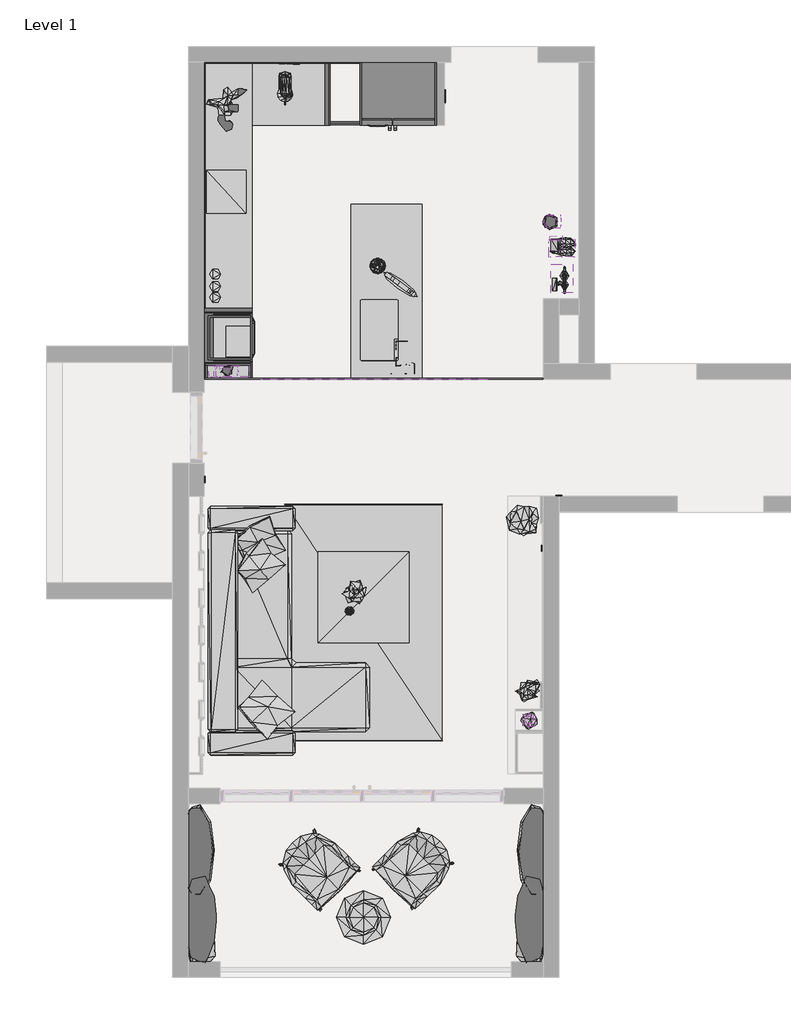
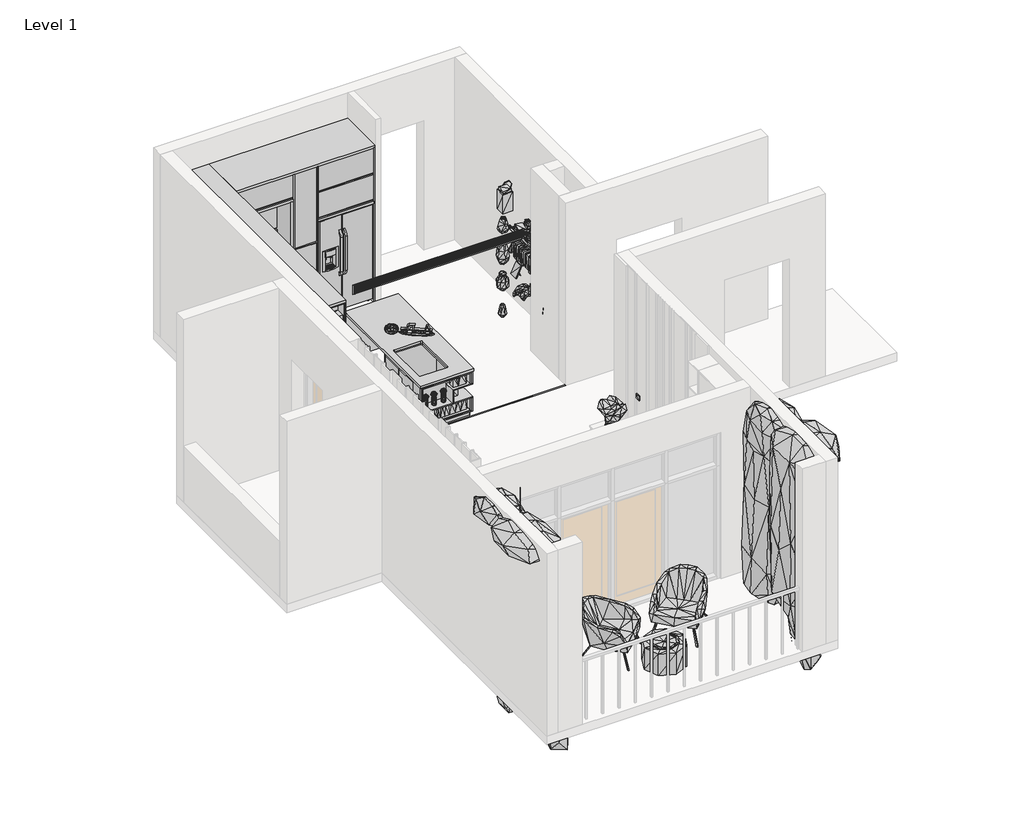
# One storey, part 2 of 2: 62 geographic elements, 4 proxies, 1 furniture element.
"""IFC4 building model written with IfcOpenShell, lengths in millimetres."""

from ifc_helpers import new_model, si_unit, origin, place, context, project, spatial, transform, mapped, element, save
from components import specialty_equipment_b5bd31df, specialty_equipment_c4bc254f, specialty_equipment_980dbe76, specialty_equipment_90c1c6b7, generic_models_adb6d911, generic_models_1_generic_models_1_b91d2ab0, generic_models_1_generic_models_1_2284acf8, inlet_grid_ga15_4a61f467, refrigerator_ge_7938_refrigerator_ge_7938_6d497281, geographic_element_9300c8df, geographic_element_6c01276e, geographic_element_3e976fe9, geographic_element_067eaa29, geographic_element_decb433f, geographic_element_b8c225c3, geographic_element_2400c7e3, geographic_element_4d599565, geographic_element_d3b9378c, geographic_element_60de37d3, geographic_element_de3b21ac, geographic_element_f0b484e9, geographic_element_9074d599, geographic_element_8ae85c0b, geographic_element_9d54f048, geographic_element_f46679e8, geographic_element_d4c91cff, geographic_element_4bf2e114, geographic_element_d181bed6, enscape_assetdefinition_books_02_1_enscape_assetdefinition_e079a25d, enscape_assetdefinition_books_04_1_enscape_assetdefinition_30a1759c, enscape_assetdefinition_books_09_1_enscape_assetdefinition_3c5f9357, enscape_assetdefinition_books_10_enscape_assetdefinition_bd5f69e2, enscape_assetdefinition_books_11_enscape_assetdefinition_afcb8159, enscape_assetdefinition_books_enscape_assetdefinition_books_90869a48, enscape_assetdefinition_electric_mixer_1_enscape_94847bc3, enscape_assetdefinition_interior_plant_35_enscape_2c715937, enscape_assetdefinition_interior_plant_62_enscape_7ba2f476, enscape_assetdefinition_interior_plant_64_enscape_317deba9, enscape_assetdefinition_interior_plant_81_enscape_1c3ac804, enscape_assetdefinition_interior_plant_83_enscape_5eada784, enscape_assetdefinition_interior_plant_90_1_enscape_fa028396, enscape_assetdefinition_light_switch_02_enscape_f65dbdaa, enscape_assetdefinition_outdoor_armchair_06_enscape_9edebd44, enscape_assetdefinition_outdoor_couch_table_04_enscape_5f19a239, enscape_assetdefinition_photo_frame_enscape_assetdefinition_5837e575, enscape_assetdefinition_picture_frame_portrait_1_enscape_684294eb, enscape_assetdefinition_power_socket_1_enscape_57b8c8f3, enscape_assetdefinition_rug_07_enscape_assetdefinition_rug_c4f60c79, enscape_assetdefinition_sculpture_man_enscape_320ed476, enscape_assetdefinition_sculpture_sun_enscape_59169893, enscape_assetdefinition_side_table_15_enscape_5be1d814, enscape_assetdefinition_sofa_13_enscape_assetdefinition_sofa_9e4e7f4c, enscape_assetdefinition_tomato_bowl_enscape_assetdefinition_e00e02f3, enscape_assetdefinition_vase_07_enscape_assetdefinition_vase_3c7b1416, enscape_assetdefinition_vase_09_enscape_assetdefinition_vase_83b714b2, enscape_assetdefinition_vase_12_enscape_assetdefinition_vase_6fe4ffb9

model = new_model("IFC4")

# Units and contexts
model_context = context("Model", 3, world=origin())
ifc_project = project(units=[si_unit("LENGTHUNIT", "METRE", prefix="MILLI")], contexts=[model_context])

# Site, building, storey
site = spatial("IfcSite", under=ifc_project)
building = spatial("IfcBuilding", under=site)
storey = spatial("IfcBuildingStorey", under=building, Name="Level 1", Elevation=0.0)

# Proxies
placement = place(None, origin())
specialty_equipment_shape = specialty_equipment_b5bd31df(model_context)
specialty_equipment_2_shape = specialty_equipment_c4bc254f(model_context)
specialty_equipment_3_shape = specialty_equipment_980dbe76(model_context)
specialty_equipment_4_shape = specialty_equipment_90c1c6b7(model_context)
element("IfcBuildingElementProxy", 1, Name="Horno_-_Microondas__Oven_-_Microwave_16796 : Horno_-_Microondas__Oven_-_Microwave_16796", ObjectType="Horno_-_Microondas__Oven_-_Microwave_16796 : Horno_-_Microondas__Oven_-_Microwave_16796", at=placement, inside=storey, context=model_context, shape_type="MappedRepresentation", body=[
    mapped(specialty_equipment_shape, transform((-5777.2426281, 3220.1043853, 228.0), x_axis=(0.0, 1.0, 0.0), y_axis=(-1.0, 0.0, 0.0), z_axis=(0.0, 0.0, 1.0))),
    mapped(specialty_equipment_2_shape, transform((-5777.2426281, 3220.1043853, 228.0), x_axis=(0.0, 1.0, 0.0), y_axis=(-1.0, 0.0, 0.0), z_axis=(0.0, 0.0, 1.0))),
    mapped(specialty_equipment_3_shape, transform((-5777.2426281, 3220.1043853, 228.0), x_axis=(0.0, 1.0, 0.0), y_axis=(-1.0, 0.0, 0.0), z_axis=(0.0, 0.0, 1.0))),
    mapped(specialty_equipment_4_shape, transform((-5777.2426281, 3220.1043853, 228.0), x_axis=(0.0, 1.0, 0.0), y_axis=(-1.0, 0.0, 0.0), z_axis=(0.0, 0.0, 1.0))),
])
generic_models_shape = generic_models_adb6d911(model_context)
element("IfcBuildingElementProxy", 2, Name="ArcPro Statue : ArcPro Statue", ObjectType="ArcPro Statue : ArcPro Statue", at=placement, inside=storey, context=model_context, shape_type="MappedRepresentation", body=[
    mapped(generic_models_shape, transform((-3827.6139684, 3856.4743983, 830.0), x_axis=(-0.8043072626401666, 0.5942136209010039, 0.0), y_axis=(-0.5942136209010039, -0.8043072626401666, 0.0), z_axis=(0.0, 0.0, 1.0))),
])
generic_models_1_generic_models_1_shape = generic_models_1_generic_models_1_b91d2ab0(model_context)
generic_models_1_generic_models_1_2_shape = generic_models_1_generic_models_1_2284acf8(model_context)
element("IfcBuildingElementProxy", 3, Name="Generic Models 1 : Generic Models 1", ObjectType="Generic Models 1 : Generic Models 1", at=placement, inside=storey, context=model_context, shape_type="MappedRepresentation", body=[
    mapped(generic_models_1_generic_models_1_shape, transform((0.0, 0.0, 0.0), x_axis=(1.0, 0.0, 0.0), y_axis=(0.0, 1.0, 0.0), z_axis=(0.0, 0.0, 1.0))),
    mapped(generic_models_1_generic_models_1_2_shape, transform((0.0, 0.0, 0.0), x_axis=(1.0, 0.0, 0.0), y_axis=(0.0, 1.0, 0.0), z_axis=(0.0, 0.0, 1.0))),
])
inlet_grid_ga15_shape = inlet_grid_ga15_4a61f467(model_context)
element("IfcBuildingElementProxy", 4, Name="HVAC_Accessories_Emmeti_Grid-GA : Inlet grid - GA15", ObjectType="HVAC_Accessories_Emmeti_Grid-GA : Inlet grid - GA15", at=placement, inside=storey, context=model_context, shape_type="MappedRepresentation", body=[
    mapped(inlet_grid_ga15_shape, transform((-5348.1721278, 2689.1043853, 2875.0), x_axis=(-1.0, 0.0, 0.0), y_axis=(0.0, -1.0, 0.0), z_axis=(0.0, 0.0, 1.0))),
])

# Furniture
refrigerator_ge_7938_refrigerator_ge_7938_shape = refrigerator_ge_7938_refrigerator_ge_7938_6d497281(model_context)
element("IfcFurniture", 5, ObjectType="Refrigerator_GE_7938 : Refrigerator_GE_7938", at=placement, inside=storey, context=model_context, shape_type="MappedRepresentation", body=[
    mapped(refrigerator_ge_7938_refrigerator_ge_7938_shape, transform((-3957.2426281, 5910.1043853, 0.0), x_axis=(1.0, 0.0, 0.0), y_axis=(0.0, 1.0, 0.0), z_axis=(0.0, 0.0, 1.0))),
])

# Geographic elements
geographic_element_shape = geographic_element_9300c8df(model_context)
element("IfcGeographicElement", 6, ObjectType="Enscape AssetDefinition - Cooking plate 1 : Enscape AssetDefinition - Cooking plate 1", at=placement, inside=storey, context=model_context, shape_type="MappedRepresentation", body=[
    mapped(geographic_element_shape, transform((-6087.2426281, 5070.1043853, 830.0), x_axis=(0.0, 1.0, 0.0), y_axis=(-1.0, 0.0, 0.0), z_axis=(0.0, 0.0, 1.0))),
])
geographic_element_2_shape = geographic_element_6c01276e(model_context)
element("IfcGeographicElement", 7, ObjectType="Enscape AssetDefinition - Canister 02 : Enscape AssetDefinition - Canister 02", at=placement, inside=storey, context=model_context, shape_type="MappedRepresentation", body=[
    mapped(geographic_element_2_shape, transform((-6227.2426281, 3730.1043853, 830.0), x_axis=(1.0, 0.0, 0.0), y_axis=(0.0, 1.0, 0.0), z_axis=(0.0, 0.0, 1.0))),
])
element("IfcGeographicElement", 8, ObjectType="Enscape AssetDefinition - Canister 02 : Enscape AssetDefinition - Canister 02", at=placement, inside=storey, context=model_context, shape_type="MappedRepresentation", body=[
    mapped(geographic_element_2_shape, transform((-6227.2426281, 3870.1043853, 830.0), x_axis=(1.0, 0.0, 0.0), y_axis=(0.0, 1.0, 0.0), z_axis=(0.0, 0.0, 1.0))),
])
element("IfcGeographicElement", 9, ObjectType="Enscape AssetDefinition - Canister 02 : Enscape AssetDefinition - Canister 02", at=placement, inside=storey, context=model_context, shape_type="MappedRepresentation", body=[
    mapped(geographic_element_2_shape, transform((-6227.2426281, 4024.5043853, 830.0), x_axis=(1.0, 0.0, 0.0), y_axis=(0.0, 1.0, 0.0), z_axis=(0.0, 0.0, 1.0))),
])
geographic_element_3_shape = geographic_element_3e976fe9(model_context)
element("IfcGeographicElement", 10, ObjectType="Enscape AssetDefinition - Rosemary, Potted 1 : Enscape AssetDefinition - Rosemary, Potted 1", at=placement, inside=storey, context=model_context, shape_type="MappedRepresentation", body=[
    mapped(geographic_element_3_shape, transform((-2247.2426281, -1629.8956147, 823.3333333), x_axis=(1.0, 0.0, 0.0), y_axis=(0.0, 1.0, 0.0), z_axis=(0.0, 0.0, 1.0))),
])
geographic_element_4_shape = geographic_element_067eaa29(model_context)
element("IfcGeographicElement", 11, ObjectType="Enscape AssetDefinition - Sculpture, Cats : Enscape AssetDefinition - Sculpture, Cats", at=placement, inside=storey, context=model_context, shape_type="MappedRepresentation", body=[
    mapped(geographic_element_4_shape, transform((-1797.2426281, 3950.1043853, 474.4), x_axis=(0.0, -1.0, 0.0), y_axis=(1.0, 0.0, 0.0), z_axis=(0.0, 0.0, 1.0))),
])
geographic_element_5_shape = geographic_element_decb433f(model_context)
element("IfcGeographicElement", 12, ObjectType="Enscape AssetDefinition - Sculpture, Bears : Enscape AssetDefinition - Sculpture, Bears", at=placement, inside=storey, context=model_context, shape_type="MappedRepresentation", body=[
    mapped(geographic_element_5_shape, transform((-1817.2426281, 4370.1043853, 474.4), x_axis=(0.0, -1.0, 0.0), y_axis=(1.0, 0.0, 0.0), z_axis=(0.0, 0.0, 1.0))),
])
geographic_element_6_shape = geographic_element_b8c225c3(model_context)
element("IfcGeographicElement", 13, ObjectType="Enscape AssetDefinition - Candle Lantern : Enscape AssetDefinition - Candle Lantern", at=placement, inside=storey, context=model_context, shape_type="MappedRepresentation", body=[
    mapped(geographic_element_6_shape, transform((-1932.2426281, 4690.1043853, 1872.6666667), x_axis=(0.0, -1.0, 0.0), y_axis=(1.0, 0.0, 0.0), z_axis=(0.0, 0.0, 1.0))),
])
geographic_element_7_shape = geographic_element_2400c7e3(model_context)
element("IfcGeographicElement", 14, ObjectType="Enscape AssetDefinition - Origami Vase 03 : Enscape AssetDefinition - Origami Vase 03", at=placement, inside=storey, context=model_context, shape_type="MappedRepresentation", body=[
    mapped(geographic_element_7_shape, transform((-1977.2426281, 4686.6211578, 945.3333333), x_axis=(1.0, 0.0, 0.0), y_axis=(0.0, 1.0, 0.0), z_axis=(0.0, 0.0, 1.0))),
])
geographic_element_8_shape = geographic_element_4d599565(model_context)
element("IfcGeographicElement", 15, ObjectType="Enscape AssetDefinition - Decoration Collection : Enscape AssetDefinition - Decoration Collection", at=placement, inside=storey, context=model_context, shape_type="MappedRepresentation", body=[
    mapped(geographic_element_8_shape, transform((-6050.4166281, 2791.7593846, 1852.6676667), x_axis=(1.0, 0.0, 0.0), y_axis=(0.0, 1.0, 0.0), z_axis=(0.0, 0.0, 1.0))),
])
geographic_element_9_shape = geographic_element_d3b9378c(model_context)
element("IfcGeographicElement", 16, ObjectType="Enscape AssetDefinition - Candle Holder : Enscape AssetDefinition - Candle Holder", at=placement, inside=storey, context=model_context, shape_type="MappedRepresentation", body=[
    mapped(geographic_element_9_shape, transform((-2247.2426281, -1629.8956147, 2189.3333333), x_axis=(1.0, 0.0, 0.0), y_axis=(0.0, 1.0, 0.0), z_axis=(0.0, 0.0, 1.0))),
])
geographic_element_10_shape = geographic_element_60de37d3(model_context)
element("IfcGeographicElement", 17, ObjectType="Enscape AssetDefinition - Candle Tray 02 : Enscape AssetDefinition - Candle Tray 02", at=placement, inside=storey, context=model_context, shape_type="MappedRepresentation", body=[
    mapped(geographic_element_10_shape, transform((-1831.3733877, 3970.8018649, 1693.499), x_axis=(0.0, 1.0, 0.0), y_axis=(-1.0, 0.0, 0.0), z_axis=(0.0, 0.0, 1.0))),
])
geographic_element_11_shape = geographic_element_de3b21ac(model_context)
element("IfcGeographicElement", 18, ObjectType="Enscape AssetDefinition - Decoration Collection 02 : Enscape AssetDefinition - Decoration Collection 02", at=placement, inside=storey, context=model_context, shape_type="MappedRepresentation", body=[
    mapped(geographic_element_11_shape, transform((-1830.0857866, 4353.0213193, 1689.4279999), x_axis=(1.0, 0.0, 0.0), y_axis=(0.0, 1.0, 0.0), z_axis=(0.0, 0.0, 1.0))),
])
geographic_element_12_shape = geographic_element_f0b484e9(model_context)
element("IfcGeographicElement", 19, ObjectType="Enscape AssetDefinition - Origami Vase 04 : Enscape AssetDefinition - Origami Vase 04", at=placement, inside=storey, context=model_context, shape_type="MappedRepresentation", body=[
    mapped(geographic_element_12_shape, transform((-1977.2426281, 4686.6211578, 0.0), x_axis=(1.0, 0.0, 0.0), y_axis=(0.0, 1.0, 0.0), z_axis=(0.0, 0.0, 1.0))),
])
geographic_element_13_shape = geographic_element_9074d599(model_context)
element("IfcGeographicElement", 20, ObjectType="Enscape AssetDefinition - Plushy 02 : Enscape AssetDefinition - Plushy 02", at=placement, inside=storey, context=model_context, shape_type="MappedRepresentation", body=[
    mapped(geographic_element_13_shape, transform((-6050.4166281, 2791.7593846, 491.7), x_axis=(1.0, 0.0, 0.0), y_axis=(0.0, 1.0, 0.0), z_axis=(0.0, 0.0, 1.0))),
])
geographic_element_14_shape = geographic_element_8ae85c0b(model_context)
element("IfcGeographicElement", 21, ObjectType="Enscape AssetDefinition - Plushy 03 : Enscape AssetDefinition - Plushy 03", at=placement, inside=storey, context=model_context, shape_type="MappedRepresentation", body=[
    mapped(geographic_element_14_shape, transform((-6067.2426281, 2791.7593846, 38.0), x_axis=(1.0, 0.0, 0.0), y_axis=(0.0, 1.0, 0.0), z_axis=(0.0, 0.0, 1.0))),
])
geographic_element_15_shape = geographic_element_9d54f048(model_context)
element("IfcGeographicElement", 22, ObjectType="Enscape AssetDefinition - Strawberry Bowl : Enscape AssetDefinition - Strawberry Bowl", at=placement, inside=storey, context=model_context, shape_type="MappedRepresentation", body=[
    mapped(geographic_element_15_shape, transform((-4522.2472574, -244.900244, 242.8), x_axis=(1.0, 0.0, 0.0), y_axis=(0.0, 1.0, 0.0), z_axis=(0.0, 0.0, 1.0))),
])
geographic_element_16_shape = geographic_element_f46679e8(model_context)
element("IfcGeographicElement", 23, ObjectType="Enscape AssetDefinition - Bower Vine 13 : Enscape AssetDefinition - Bower Vine 13", at=placement, inside=storey, context=model_context, shape_type="MappedRepresentation", body=[
    mapped(geographic_element_16_shape, transform((-6567.2426281, -3289.8956147, 3000.0), x_axis=(0.0, 1.0, 0.0), y_axis=(-1.0, 0.0, 0.0), z_axis=(0.0, 0.0, 1.0))),
])
geographic_element_17_shape = geographic_element_d4c91cff(model_context)
element("IfcGeographicElement", 24, ObjectType="Enscape AssetDefinition - Bower Vine 06 : Enscape AssetDefinition - Bower Vine 06", at=placement, inside=storey, context=model_context, shape_type="MappedRepresentation", body=[
    mapped(geographic_element_17_shape, transform((-6567.2426281, -4189.8956147, 3000.0), x_axis=(0.0, 1.0, 0.0), y_axis=(-1.0, 0.0, 0.0), z_axis=(0.0, 0.0, 1.0))),
])
geographic_element_18_shape = geographic_element_4bf2e114(model_context)
element("IfcGeographicElement", 25, ObjectType="Enscape AssetDefinition - Bower Vine 13 : Enscape AssetDefinition - Bower Vine 13", at=placement, inside=storey, context=model_context, shape_type="MappedRepresentation", body=[
    mapped(geographic_element_18_shape, transform((-2067.2426281, -3289.8956147, 3000.0), x_axis=(0.0, 1.0, 0.0), y_axis=(-1.0, 0.0, 0.0), z_axis=(0.0, 0.0, 1.0))),
])
geographic_element_19_shape = geographic_element_d181bed6(model_context)
element("IfcGeographicElement", 26, ObjectType="Enscape AssetDefinition - Bower Vine 06 : Enscape AssetDefinition - Bower Vine 06", at=placement, inside=storey, context=model_context, shape_type="MappedRepresentation", body=[
    mapped(geographic_element_19_shape, transform((-2067.2426281, -4189.8956147, 3000.0), x_axis=(0.0, 1.0, 0.0), y_axis=(-1.0, 0.0, 0.0), z_axis=(0.0, 0.0, 1.0))),
])
enscape_assetdefinition_books_02_1_enscape_assetdefinition_shape = enscape_assetdefinition_books_02_1_enscape_assetdefinition_e079a25d(model_context)
element("IfcGeographicElement", 27, ObjectType="Enscape AssetDefinition - Books 02 1 : Enscape AssetDefinition - Books 02 1", at=placement, inside=storey, context=model_context, shape_type="MappedRepresentation", body=[
    mapped(enscape_assetdefinition_books_02_1_enscape_assetdefinition_shape, transform((-1917.648608, 4133.2060024, 1286.7863832), x_axis=(1.0, 0.0, 0.0), y_axis=(0.0, 1.0, 0.0), z_axis=(0.0, 0.0, 1.0))),
])
enscape_assetdefinition_books_04_1_enscape_assetdefinition_shape = enscape_assetdefinition_books_04_1_enscape_assetdefinition_30a1759c(model_context)
element("IfcGeographicElement", 28, ObjectType="Enscape AssetDefinition - Books 04 1 : Enscape AssetDefinition - Books 04 1", at=placement, inside=storey, context=model_context, shape_type="MappedRepresentation", body=[
    mapped(enscape_assetdefinition_books_04_1_enscape_assetdefinition_shape, transform((-6021.8726268, 2791.7593846, 2306.3333333), x_axis=(1.0, 0.0, 0.0), y_axis=(0.0, 1.0, 0.0), z_axis=(0.0, 0.0, 1.0))),
])
enscape_assetdefinition_books_09_1_enscape_assetdefinition_shape = enscape_assetdefinition_books_09_1_enscape_assetdefinition_3c5f9357(model_context)
element("IfcGeographicElement", 29, ObjectType="Enscape AssetDefinition - Books 09 1 : Enscape AssetDefinition - Books 09 1", at=placement, inside=storey, context=model_context, shape_type="MappedRepresentation", body=[
    mapped(enscape_assetdefinition_books_09_1_enscape_assetdefinition_shape, transform((-6177.2426281, 2790.1043853, 1399.0), x_axis=(1.0, 0.0, 0.0), y_axis=(0.0, 1.0, 0.0), z_axis=(0.0, 0.0, 1.0))),
])
enscape_assetdefinition_books_10_enscape_assetdefinition_shape = enscape_assetdefinition_books_10_enscape_assetdefinition_bd5f69e2(model_context)
element("IfcGeographicElement", 30, ObjectType="Enscape AssetDefinition - Books 10 : Enscape AssetDefinition - Books 10", at=placement, inside=storey, context=model_context, shape_type="MappedRepresentation", body=[
    mapped(enscape_assetdefinition_books_10_enscape_assetdefinition_shape, transform((-3806.9010035, 2830.8110799, 568.0), x_axis=(1.0, 0.0, 0.0), y_axis=(0.0, 1.0, 0.0), z_axis=(0.0, 0.0, 1.0))),
])
enscape_assetdefinition_books_11_enscape_assetdefinition_shape = enscape_assetdefinition_books_11_enscape_assetdefinition_afcb8159(model_context)
element("IfcGeographicElement", 31, ObjectType="Enscape AssetDefinition - Books 11 : Enscape AssetDefinition - Books 11", at=placement, inside=storey, context=model_context, shape_type="MappedRepresentation", body=[
    mapped(enscape_assetdefinition_books_11_enscape_assetdefinition_shape, transform((-4066.3065129, 2830.8110799, 108.0), x_axis=(1.0, 0.0, 0.0), y_axis=(0.0, 1.0, 0.0), z_axis=(0.0, 0.0, 1.0))),
])
enscape_assetdefinition_books_enscape_assetdefinition_books_shape = enscape_assetdefinition_books_enscape_assetdefinition_books_90869a48(model_context)
element("IfcGeographicElement", 32, ObjectType="Enscape AssetDefinition - Books : Enscape AssetDefinition - Books", at=placement, inside=storey, context=model_context, shape_type="MappedRepresentation", body=[
    mapped(enscape_assetdefinition_books_enscape_assetdefinition_books_shape, transform((-3937.2426281, 3015.7965873, 328.0), x_axis=(1.0, 0.0, 0.0), y_axis=(0.0, 1.0, 0.0), z_axis=(0.0, 0.0, 1.0))),
])
enscape_assetdefinition_electric_mixer_1_enscape_shape = enscape_assetdefinition_electric_mixer_1_enscape_94847bc3(model_context)
element("IfcGeographicElement", 33, ObjectType="Enscape AssetDefinition - Electric Mixer 1 : Enscape AssetDefinition - Electric Mixer 1", at=placement, inside=storey, context=model_context, shape_type="MappedRepresentation", body=[
    mapped(enscape_assetdefinition_electric_mixer_1_enscape_shape, transform((-5342.2426281, 6390.1043853, 830.0), x_axis=(1.0, 0.0, 0.0), y_axis=(0.0, 1.0, 0.0), z_axis=(0.0, 0.0, 1.0))),
])
enscape_assetdefinition_interior_plant_35_enscape_shape = enscape_assetdefinition_interior_plant_35_enscape_2c715937(model_context)
element("IfcGeographicElement", 34, ObjectType="Enscape AssetDefinition - Interior Plant 35 : Enscape AssetDefinition - Interior Plant 35", at=placement, inside=storey, context=model_context, shape_type="MappedRepresentation", body=[
    mapped(enscape_assetdefinition_interior_plant_35_enscape_shape, transform((-2247.2426281, -1249.8956147, 350.0), x_axis=(1.0, 0.0, 0.0), y_axis=(0.0, 1.0, 0.0), z_axis=(0.0, 0.0, 1.0))),
])
enscape_assetdefinition_interior_plant_62_enscape_shape = enscape_assetdefinition_interior_plant_62_enscape_7ba2f476(model_context)
element("IfcGeographicElement", 35, ObjectType="Enscape AssetDefinition - Interior Plant 62 : Enscape AssetDefinition - Interior Plant 62", at=placement, inside=storey, context=model_context, shape_type="MappedRepresentation", body=[
    mapped(enscape_assetdefinition_interior_plant_62_enscape_shape, transform((-4455.9564686, -17.4652255, 242.7749932), x_axis=(1.0, 0.0, 0.0), y_axis=(0.0, 1.0, 0.0), z_axis=(0.0, 0.0, 1.0))),
])
enscape_assetdefinition_interior_plant_64_enscape_shape = enscape_assetdefinition_interior_plant_64_enscape_317deba9(model_context)
element("IfcGeographicElement", 36, ObjectType="Enscape AssetDefinition - Interior Plant 64 : Enscape AssetDefinition - Interior Plant 64", at=placement, inside=storey, context=model_context, shape_type="MappedRepresentation", body=[
    mapped(enscape_assetdefinition_interior_plant_64_enscape_shape, transform((-2249.8688618, -1627.269381, 368.0), x_axis=(1.0, 0.0, 0.0), y_axis=(0.0, 1.0, 0.0), z_axis=(0.0, 0.0, 1.0))),
])
enscape_assetdefinition_interior_plant_81_enscape_shape = enscape_assetdefinition_interior_plant_81_enscape_1c3ac804(model_context)
element("IfcGeographicElement", 37, ObjectType="Enscape AssetDefinition - Interior Plant 81 : Enscape AssetDefinition - Interior Plant 81", at=placement, inside=storey, context=model_context, shape_type="MappedRepresentation", body=[
    mapped(enscape_assetdefinition_interior_plant_81_enscape_shape, transform((-6067.2426281, 2810.1043853, 945.3333333), x_axis=(1.0, 0.0, 0.0), y_axis=(0.0, 1.0, 0.0), z_axis=(0.0, 0.0, 1.0))),
])
enscape_assetdefinition_interior_plant_83_enscape_shape = enscape_assetdefinition_interior_plant_83_enscape_5eada784(model_context)
element("IfcGeographicElement", 38, ObjectType="Enscape AssetDefinition - Interior Plant 83 : Enscape AssetDefinition - Interior Plant 83", at=placement, inside=storey, context=model_context, shape_type="MappedRepresentation", body=[
    mapped(enscape_assetdefinition_interior_plant_83_enscape_shape, transform((-2307.2426281, 890.1043853, 350.0), x_axis=(1.0, 0.0, 0.0), y_axis=(0.0, 1.0, 0.0), z_axis=(0.0, 0.0, 1.0))),
])
enscape_assetdefinition_interior_plant_90_1_enscape_shape = enscape_assetdefinition_interior_plant_90_1_enscape_fa028396(model_context)
element("IfcGeographicElement", 39, ObjectType="Enscape AssetDefinition - Interior Plant 90 1 : Enscape AssetDefinition - Interior Plant 90 1", at=placement, inside=storey, context=model_context, shape_type="MappedRepresentation", body=[
    mapped(enscape_assetdefinition_interior_plant_90_1_enscape_shape, transform((-6087.2426281, 6130.1043853, 830.0), x_axis=(0.0, 1.0, 0.0), y_axis=(-1.0, 0.0, 0.0), z_axis=(0.0, 0.0, 1.0))),
])
enscape_assetdefinition_light_switch_02_enscape_shape = enscape_assetdefinition_light_switch_02_enscape_f65dbdaa(model_context)
element("IfcGeographicElement", 40, ObjectType="Enscape AssetDefinition - Light Switch 02 : Enscape AssetDefinition - Light Switch 02", at=placement, inside=storey, context=model_context, shape_type="MappedRepresentation", body=[
    mapped(enscape_assetdefinition_light_switch_02_enscape_shape, transform((-3317.2426281, 6325.1043853, 1100.0), x_axis=(0.0, 1.0, 0.0), y_axis=(-1.0, 0.0, 0.0), z_axis=(0.0, 0.0, 1.0))),
])
element("IfcGeographicElement", 41, ObjectType="Enscape AssetDefinition - Light Switch 02 : Enscape AssetDefinition - Light Switch 02", at=placement, inside=storey, context=model_context, shape_type="MappedRepresentation", body=[
    mapped(enscape_assetdefinition_light_switch_02_enscape_shape, transform((-3317.2426281, 6240.1043853, 1100.0), x_axis=(0.0, 1.0, 0.0), y_axis=(-1.0, 0.0, 0.0), z_axis=(0.0, 0.0, 1.0))),
])
element("IfcGeographicElement", 42, ObjectType="Enscape AssetDefinition - Light Switch 02 : Enscape AssetDefinition - Light Switch 02", at=placement, inside=storey, context=model_context, shape_type="MappedRepresentation", body=[
    mapped(enscape_assetdefinition_light_switch_02_enscape_shape, transform((-5197.4618478, 6700.1043853, 1100.0), x_axis=(1.0, 0.0, 0.0), y_axis=(0.0, 1.0, 0.0), z_axis=(0.0, 0.0, 1.0))),
])
element("IfcGeographicElement", 43, ObjectType="Enscape AssetDefinition - Light Switch 02 : Enscape AssetDefinition - Light Switch 02", at=placement, inside=storey, context=model_context, shape_type="MappedRepresentation", body=[
    mapped(enscape_assetdefinition_light_switch_02_enscape_shape, transform((-6367.2426281, 5750.1043853, 1100.0), x_axis=(0.0, 1.0, 0.0), y_axis=(-1.0, 0.0, 0.0), z_axis=(0.0, 0.0, 1.0))),
])
element("IfcGeographicElement", 44, ObjectType="Enscape AssetDefinition - Light Switch 02 : Enscape AssetDefinition - Light Switch 02", at=placement, inside=storey, context=model_context, shape_type="MappedRepresentation", body=[
    mapped(enscape_assetdefinition_light_switch_02_enscape_shape, transform((-6367.2426281, 1420.1043853, 1100.0), x_axis=(0.0, 1.0, 0.0), y_axis=(-1.0, 0.0, 0.0), z_axis=(0.0, 0.0, 1.0))),
])
element("IfcGeographicElement", 45, ObjectType="Enscape AssetDefinition - Light Switch 02 : Enscape AssetDefinition - Light Switch 02", at=placement, inside=storey, context=model_context, shape_type="MappedRepresentation", body=[
    mapped(enscape_assetdefinition_light_switch_02_enscape_shape, transform((-1867.2426281, 1210.1043853, 1100.0), x_axis=(-1.0, 0.0, 0.0), y_axis=(0.0, -1.0, 0.0), z_axis=(0.0, 0.0, 1.0))),
])
element("IfcGeographicElement", 46, ObjectType="Enscape AssetDefinition - Light Switch 02 : Enscape AssetDefinition - Light Switch 02", at=placement, inside=storey, context=model_context, shape_type="MappedRepresentation", body=[
    mapped(enscape_assetdefinition_light_switch_02_enscape_shape, transform((-2077.2426281, 550.1043853, 1100.0), x_axis=(0.0, -1.0, 0.0), y_axis=(1.0, 0.0, 0.0), z_axis=(0.0, 0.0, 1.0))),
])
enscape_assetdefinition_outdoor_armchair_06_enscape_shape = enscape_assetdefinition_outdoor_armchair_06_enscape_9edebd44(model_context)
element("IfcGeographicElement", 47, ObjectType="Enscape AssetDefinition - Outdoor Armchair 06 : Enscape AssetDefinition - Outdoor Armchair 06", at=placement, inside=storey, context=model_context, shape_type="MappedRepresentation", body=[
    mapped(enscape_assetdefinition_outdoor_armchair_06_enscape_shape, transform((-3725.8926986, -3516.0983579, 0.0), x_axis=(0.7071067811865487, -0.7071067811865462, 0.0), y_axis=(0.7071067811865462, 0.7071067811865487, 0.0), z_axis=(0.0, 0.0, 1.0))),
])
element("IfcGeographicElement", 48, ObjectType="Enscape AssetDefinition - Outdoor Armchair 06 : Enscape AssetDefinition - Outdoor Armchair 06", at=placement, inside=storey, context=model_context, shape_type="MappedRepresentation", body=[
    mapped(enscape_assetdefinition_outdoor_armchair_06_enscape_shape, transform((-4897.0701887, -3532.8602603, 0.0), x_axis=(0.7071067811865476, 0.7071067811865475, 0.0), y_axis=(-0.7071067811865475, 0.7071067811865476, 0.0), z_axis=(0.0, 0.0, 1.0))),
])
enscape_assetdefinition_outdoor_couch_table_04_enscape_shape = enscape_assetdefinition_outdoor_couch_table_04_enscape_5f19a239(model_context)
element("IfcGeographicElement", 49, ObjectType="Enscape AssetDefinition - Outdoor Couch Table 04 : Enscape AssetDefinition - Outdoor Couch Table 04", at=placement, inside=storey, context=model_context, shape_type="MappedRepresentation", body=[
    mapped(enscape_assetdefinition_outdoor_couch_table_04_enscape_shape, transform((-4345.6086277, -4129.8956147, 0.0), x_axis=(1.0, 0.0, 0.0), y_axis=(0.0, 1.0, 0.0), z_axis=(0.0, 0.0, 1.0))),
])
enscape_assetdefinition_photo_frame_enscape_assetdefinition_shape = enscape_assetdefinition_photo_frame_enscape_assetdefinition_5837e575(model_context)
element("IfcGeographicElement", 50, ObjectType="Enscape AssetDefinition - Photo Frame : Enscape AssetDefinition - Photo Frame", at=placement, inside=storey, context=model_context, shape_type="MappedRepresentation", body=[
    mapped(enscape_assetdefinition_photo_frame_enscape_assetdefinition_shape, transform((-1947.2426281, 3910.1043853, 880.4), x_axis=(0.0, -1.0, 0.0), y_axis=(1.0, 0.0, 0.0), z_axis=(0.0, 0.0, 1.0))),
])
enscape_assetdefinition_picture_frame_portrait_1_enscape_shape = enscape_assetdefinition_picture_frame_portrait_1_enscape_684294eb(model_context)
element("IfcGeographicElement", 51, ObjectType="Enscape AssetDefinition - Picture Frame Portrait 1 : Enscape AssetDefinition - Picture Frame Portrait 1", at=placement, inside=storey, context=model_context, shape_type="MappedRepresentation", body=[
    mapped(enscape_assetdefinition_picture_frame_portrait_1_enscape_shape, transform((-1882.2426281, 4390.1043853, 880.4), x_axis=(-1.0, 0.0, 0.0), y_axis=(0.0, -1.0, 0.0), z_axis=(0.0, 0.0, 1.0))),
])
enscape_assetdefinition_power_socket_1_enscape_shape = enscape_assetdefinition_power_socket_1_enscape_57b8c8f3(model_context)
element("IfcGeographicElement", 52, ObjectType="Enscape AssetDefinition - Power Socket 1 : Enscape AssetDefinition - Power Socket 1", at=placement, inside=storey, context=model_context, shape_type="MappedRepresentation", body=[
    mapped(enscape_assetdefinition_power_socket_1_enscape_shape, transform((-5379.0890747, 6700.1043853, 1100.0), x_axis=(1.0, 0.0, 0.0), y_axis=(0.0, 1.0, 0.0), z_axis=(0.0, 0.0, 1.0))),
])
element("IfcGeographicElement", 53, ObjectType="Enscape AssetDefinition - Power Socket 1 : Enscape AssetDefinition - Power Socket 1", at=placement, inside=storey, context=model_context, shape_type="MappedRepresentation", body=[
    mapped(enscape_assetdefinition_power_socket_1_enscape_shape, transform((-5285.3426281, 6700.1043853, 1100.0), x_axis=(1.0, 0.0, 0.0), y_axis=(0.0, 1.0, 0.0), z_axis=(0.0, 0.0, 1.0))),
])
element("IfcGeographicElement", 54, ObjectType="Enscape AssetDefinition - Power Socket 1 : Enscape AssetDefinition - Power Socket 1", at=placement, inside=storey, context=model_context, shape_type="MappedRepresentation", body=[
    mapped(enscape_assetdefinition_power_socket_1_enscape_shape, transform((-6367.2426281, 1420.1043853, 300.0), x_axis=(0.0, 1.0, 0.0), y_axis=(-1.0, 0.0, 0.0), z_axis=(0.0, 0.0, 1.0))),
])
element("IfcGeographicElement", 55, ObjectType="Enscape AssetDefinition - Power Socket 1 : Enscape AssetDefinition - Power Socket 1", at=placement, inside=storey, context=model_context, shape_type="MappedRepresentation", body=[
    mapped(enscape_assetdefinition_power_socket_1_enscape_shape, transform((-2077.2426281, 460.1043853, 300.0), x_axis=(0.0, -1.0, 0.0), y_axis=(1.0, 0.0, 0.0), z_axis=(0.0, 0.0, 1.0))),
])
element("IfcGeographicElement", 56, ObjectType="Enscape AssetDefinition - Power Socket 1 : Enscape AssetDefinition - Power Socket 1", at=placement, inside=storey, context=model_context, shape_type="MappedRepresentation", body=[
    mapped(enscape_assetdefinition_power_socket_1_enscape_shape, transform((-3317.2426281, 6325.1043853, 300.0), x_axis=(0.0, 1.0, 0.0), y_axis=(-1.0, 0.0, 0.0), z_axis=(0.0, 0.0, 1.0))),
])
enscape_assetdefinition_rug_07_enscape_assetdefinition_rug_shape = enscape_assetdefinition_rug_07_enscape_assetdefinition_rug_c4f60c79(model_context)
element("IfcGeographicElement", 57, ObjectType="Enscape AssetDefinition - Rug 07 : Enscape AssetDefinition - Rug 07", at=placement, inside=storey, context=model_context, shape_type="MappedRepresentation", body=[
    mapped(enscape_assetdefinition_rug_07_enscape_assetdefinition_rug_shape, transform((-4345.6086277, -389.8956147, 0.0), x_axis=(1.0, 0.0, 0.0), y_axis=(0.0, 1.0, 0.0), z_axis=(0.0, 0.0, 1.0))),
])
enscape_assetdefinition_sculpture_man_enscape_shape = enscape_assetdefinition_sculpture_man_enscape_320ed476(model_context)
element("IfcGeographicElement", 58, ObjectType="Enscape AssetDefinition - Sculpture, Man : Enscape AssetDefinition - Sculpture, Man", at=placement, inside=storey, context=model_context, shape_type="MappedRepresentation", body=[
    mapped(enscape_assetdefinition_sculpture_man_enscape_shape, transform((-4043.6242819, 2830.8110799, 328.0), x_axis=(1.0, 0.0, 0.0), y_axis=(0.0, 1.0, 0.0), z_axis=(0.0, 0.0, 1.0))),
])
enscape_assetdefinition_sculpture_sun_enscape_shape = enscape_assetdefinition_sculpture_sun_enscape_59169893(model_context)
element("IfcGeographicElement", 59, ObjectType="Enscape AssetDefinition - Sculpture, Sun : Enscape AssetDefinition - Sculpture, Sun", at=placement, inside=storey, context=model_context, shape_type="MappedRepresentation", body=[
    mapped(enscape_assetdefinition_sculpture_sun_enscape_shape, transform((-2247.2426281, -1629.8956147, 1278.6696667), x_axis=(0.0, 1.0, 0.0), y_axis=(-1.0, 0.0, 0.0), z_axis=(0.0, 0.0, 1.0))),
])
element("IfcGeographicElement", 60, ObjectType="Enscape AssetDefinition - Sculpture, Woman 02 : Enscape AssetDefinition - Sculpture, Woman 02", at=placement, inside=storey, context=model_context, shape_type="MappedRepresentation", body=[
    mapped(enscape_assetdefinition_sculpture_man_enscape_shape, transform((-4345.6086277, 2830.8110799, 328.0), x_axis=(1.0, 0.0, 0.0), y_axis=(0.0, 1.0, 0.0), z_axis=(0.0, 0.0, 1.0))),
])
element("IfcGeographicElement", 61, ObjectType="Enscape AssetDefinition - Sculpture, Woman : Enscape AssetDefinition - Sculpture, Woman", at=placement, inside=storey, context=model_context, shape_type="MappedRepresentation", body=[
    mapped(enscape_assetdefinition_sculpture_man_enscape_shape, transform((-4203.0360927, 2830.8110799, 328.0), x_axis=(1.0, 0.0, 0.0), y_axis=(0.0, 1.0, 0.0), z_axis=(0.0, 0.0, 1.0))),
])
enscape_assetdefinition_side_table_15_enscape_shape = enscape_assetdefinition_side_table_15_enscape_5be1d814(model_context)
element("IfcGeographicElement", 62, ObjectType="Enscape AssetDefinition - Side Table 15 : Enscape AssetDefinition - Side Table 15", at=placement, inside=storey, context=model_context, shape_type="MappedRepresentation", body=[
    mapped(enscape_assetdefinition_side_table_15_enscape_shape, transform((-4347.2426281, -69.8956147, 0.0), x_axis=(1.0, 0.0, 0.0), y_axis=(0.0, 1.0, 0.0), z_axis=(0.0, 0.0, 1.0))),
])
enscape_assetdefinition_sofa_13_enscape_assetdefinition_sofa_shape = enscape_assetdefinition_sofa_13_enscape_assetdefinition_sofa_9e4e7f4c(model_context)
element("IfcGeographicElement", 63, ObjectType="Enscape AssetDefinition - Sofa 13 : Enscape AssetDefinition - Sofa 13", at=placement, inside=storey, context=model_context, shape_type="MappedRepresentation", body=[
    mapped(enscape_assetdefinition_sofa_13_enscape_assetdefinition_sofa_shape, transform((-5467.2426281, -309.8956147, 0.0), x_axis=(0.0, -1.0, 0.0), y_axis=(1.0, 0.0, 0.0), z_axis=(0.0, 0.0, 1.0))),
])
enscape_assetdefinition_tomato_bowl_enscape_assetdefinition_shape = enscape_assetdefinition_tomato_bowl_enscape_assetdefinition_e00e02f3(model_context)
element("IfcGeographicElement", 64, ObjectType="Enscape AssetDefinition - Tomato Bowl : Enscape AssetDefinition - Tomato Bowl", at=placement, inside=storey, context=model_context, shape_type="MappedRepresentation", body=[
    mapped(enscape_assetdefinition_tomato_bowl_enscape_assetdefinition_shape, transform((-4167.2426281, 4130.1043853, 830.0), x_axis=(1.0, 0.0, 0.0), y_axis=(0.0, 1.0, 0.0), z_axis=(0.0, 0.0, 1.0))),
])
enscape_assetdefinition_vase_07_enscape_assetdefinition_vase_shape = enscape_assetdefinition_vase_07_enscape_assetdefinition_vase_3c7b1416(model_context)
element("IfcGeographicElement", 65, ObjectType="Enscape AssetDefinition - Vase 07 : Enscape AssetDefinition - Vase 07", at=placement, inside=storey, context=model_context, shape_type="MappedRepresentation", body=[
    mapped(enscape_assetdefinition_vase_07_enscape_assetdefinition_vase_shape, transform((-1974.7426281, 4686.6211578, 1500.0), x_axis=(1.0, 0.0, 0.0), y_axis=(0.0, 1.0, 0.0), z_axis=(0.0, 0.0, 1.0))),
])
enscape_assetdefinition_vase_09_enscape_assetdefinition_vase_shape = enscape_assetdefinition_vase_09_enscape_assetdefinition_vase_83b714b2(model_context)
element("IfcGeographicElement", 66, ObjectType="Enscape AssetDefinition - Vase 09 : Enscape AssetDefinition - Vase 09", at=placement, inside=storey, context=model_context, shape_type="MappedRepresentation", body=[
    mapped(enscape_assetdefinition_vase_09_enscape_assetdefinition_vase_shape, transform((-1977.2426281, 4686.6211578, 481.6666667), x_axis=(1.0, 0.0, 0.0), y_axis=(0.0, 1.0, 0.0), z_axis=(0.0, 0.0, 1.0))),
])
enscape_assetdefinition_vase_12_enscape_assetdefinition_vase_shape = enscape_assetdefinition_vase_12_enscape_assetdefinition_vase_6fe4ffb9(model_context)
element("IfcGeographicElement", 67, ObjectType="Enscape AssetDefinition - Vase 12 : Enscape AssetDefinition - Vase 12", at=placement, inside=storey, context=model_context, shape_type="MappedRepresentation", body=[
    mapped(enscape_assetdefinition_vase_12_enscape_assetdefinition_vase_shape, transform((-2247.2426281, -1629.8956147, 1734.0108204), x_axis=(1.0, 0.0, 0.0), y_axis=(0.0, 1.0, 0.0), z_axis=(0.0, 0.0, 1.0))),
])

save(model, "model.ifc")
